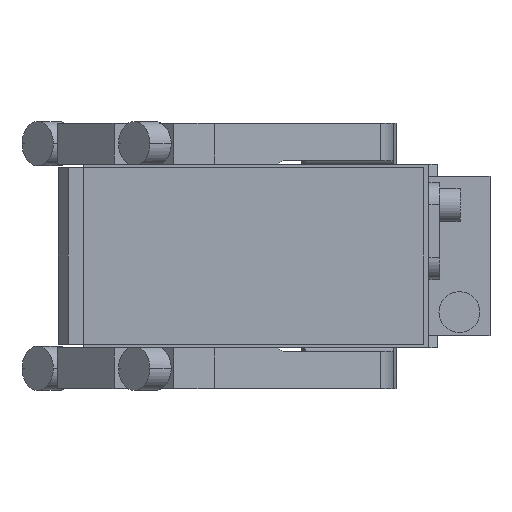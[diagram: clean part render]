
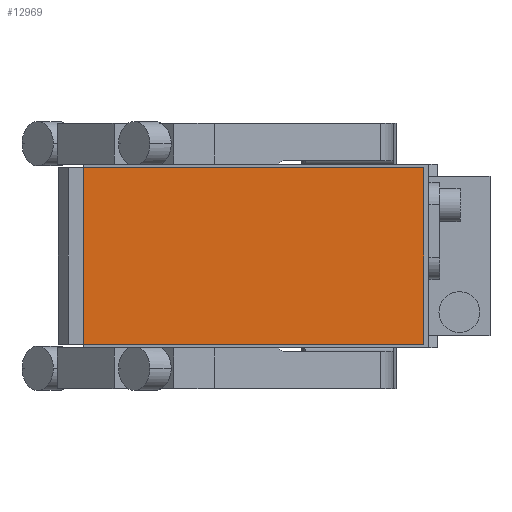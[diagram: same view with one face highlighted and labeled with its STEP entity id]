
A CAD part, front view. The second image highlights one B-rep face of the part: STEP entity #12969.
In plain terms, the highlighted planar face has unit normal (0, -1, 0).
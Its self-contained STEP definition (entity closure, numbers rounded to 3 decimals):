
#690 = CARTESIAN_POINT ( 'NONE',  ( -19., -286.5, 26. ) ) ;
#1096 = CARTESIAN_POINT ( 'NONE',  ( 81., -286.5, 26. ) ) ;
#1220 = ORIENTED_EDGE ( 'NONE', *, *, #3223, .T. ) ;
#1663 = VECTOR ( 'NONE', #13985, 1000. ) ;
#1909 = DIRECTION ( 'NONE',  ( -1., 0., 0. ) ) ;
#1918 = DIRECTION ( 'NONE',  ( 1., 0., 0. ) ) ;
#2015 = CARTESIAN_POINT ( 'NONE',  ( -19., -286.5, 26. ) ) ;
#2508 = DIRECTION ( 'NONE',  ( 0., 0., -1. ) ) ;
#2927 = LINE ( 'NONE', #690, #11743 ) ;
#2998 = VERTEX_POINT ( 'NONE', #2015 ) ;
#3223 = EDGE_CURVE ( 'NONE', #4974, #2998, #2927, .T. ) ;
#3306 = PLANE ( 'NONE',  #6345 ) ;
#4199 = CARTESIAN_POINT ( 'NONE',  ( -19., -286.5, -26. ) ) ;
#4384 = EDGE_LOOP ( 'NONE', ( #5998, #10311, #12244, #1220 ) ) ;
#4850 = LINE ( 'NONE', #12253, #10194 ) ;
#4974 = VERTEX_POINT ( 'NONE', #8203 ) ;
#5369 = CARTESIAN_POINT ( 'NONE',  ( 0., -286.5, 0. ) ) ;
#5694 = EDGE_CURVE ( 'NONE', #2998, #8385, #4850, .T. ) ;
#5998 = ORIENTED_EDGE ( 'NONE', *, *, #5694, .T. ) ;
#6345 = AXIS2_PLACEMENT_3D ( 'NONE', #5369, #8676, #13111 ) ;
#8203 = CARTESIAN_POINT ( 'NONE',  ( 81., -286.5, 26. ) ) ;
#8303 = LINE ( 'NONE', #4199, #8924 ) ;
#8385 = VERTEX_POINT ( 'NONE', #9207 ) ;
#8426 = EDGE_CURVE ( 'NONE', #13115, #4974, #9536, .T. ) ;
#8676 = DIRECTION ( 'NONE',  ( 0., -1., 0. ) ) ;
#8924 = VECTOR ( 'NONE', #1918, 1000. ) ;
#9031 = EDGE_CURVE ( 'NONE', #8385, #13115, #8303, .T. ) ;
#9207 = CARTESIAN_POINT ( 'NONE',  ( -19., -286.5, -26. ) ) ;
#9536 = LINE ( 'NONE', #1096, #1663 ) ;
#9847 = FACE_OUTER_BOUND ( 'NONE', #4384, .T. ) ;
#10194 = VECTOR ( 'NONE', #2508, 1000. ) ;
#10311 = ORIENTED_EDGE ( 'NONE', *, *, #9031, .T. ) ;
#11743 = VECTOR ( 'NONE', #1909, 1000. ) ;
#12244 = ORIENTED_EDGE ( 'NONE', *, *, #8426, .T. ) ;
#12253 = CARTESIAN_POINT ( 'NONE',  ( -19., -286.5, 26. ) ) ;
#12956 = CARTESIAN_POINT ( 'NONE',  ( 81., -286.5, -26. ) ) ;
#12969 = ADVANCED_FACE ( 'NONE', ( #9847 ), #3306, .T. ) ;
#13111 = DIRECTION ( 'NONE',  ( 0., 0., -1. ) ) ;
#13115 = VERTEX_POINT ( 'NONE', #12956 ) ;
#13985 = DIRECTION ( 'NONE',  ( 0., 0., 1. ) ) ;
